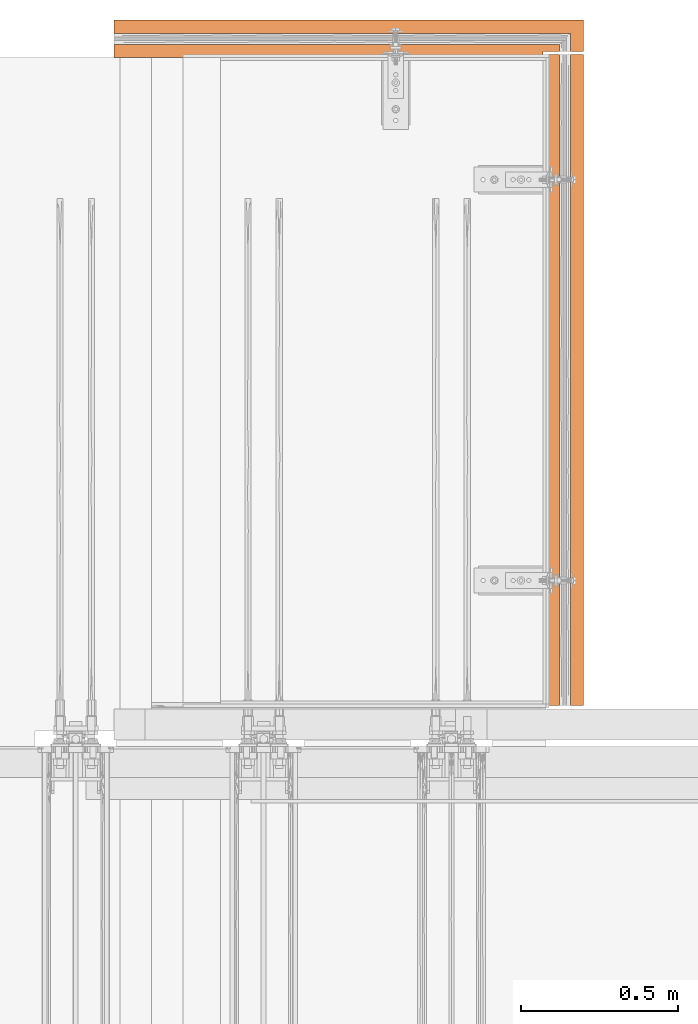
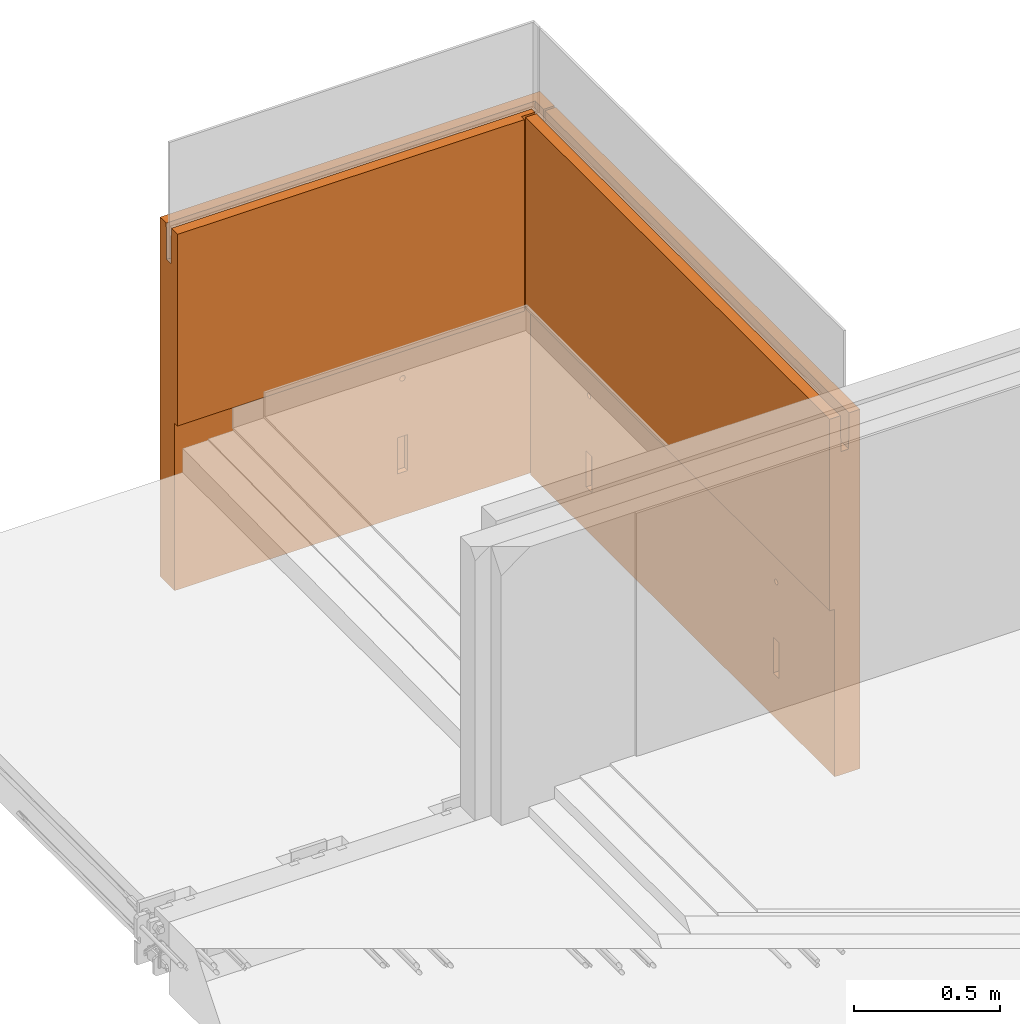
# One storey, part 17 of 17: 2 proxies.
"""IFC2X3 building model written with IfcOpenShell, lengths in metres."""

from ifc_helpers import new_model, entity, si_unit, converted_unit, derived_unit, direction, frame, origin, place, context, subcontext, project, spatial, faceted_brep, source, transform, mapped, material, material_list, type_object, type_shapes, element, save


model = new_model("IFC2X3")

# Units and contexts
model_context = context("Model", 3, precision=1e-05, world=origin(), true_north=direction((6.123031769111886e-17, 1.0)))
plan_context = context("Plan", 3, precision=1e-05, world=origin(), true_north=direction((6.123031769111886e-17, 1.0)))
body_context = subcontext(model_context, "Body", "Model", "MODEL_VIEW")
ifc_project = project(units=[si_unit("LENGTHUNIT", "METRE"), si_unit("AREAUNIT", "SQUARE_METRE"), converted_unit("PLANEANGLEUNIT", "DEGREE", entity("IfcPlaneAngleMeasure", 0.017453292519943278), si_unit("PLANEANGLEUNIT", "RADIAN"), dimensions=[0, 0, 0, 0, 0, 0, 0]), si_unit("VOLUMEUNIT", "CUBIC_METRE"), derived_unit("THERMALTRANSMITTANCEUNIT", [(si_unit("MASSUNIT", "GRAM", prefix="KILO"), 1), (si_unit("THERMODYNAMICTEMPERATUREUNIT", "KELVIN"), -1), (si_unit("TIMEUNIT", "SECOND"), -3)]), derived_unit("USERDEFINED", [(si_unit("MASSUNIT", "GRAM", prefix="KILO"), 1), (si_unit("THERMODYNAMICTEMPERATUREUNIT", "KELVIN"), -1), (si_unit("TIMEUNIT", "SECOND"), -2)]), derived_unit("THERMALRESISTANCEUNIT", [(si_unit("MASSUNIT", "GRAM", prefix="KILO"), -1), (si_unit("TIMEUNIT", "SECOND"), 3), (si_unit("THERMODYNAMICTEMPERATUREUNIT", "KELVIN"), 1)]), si_unit("PRESSUREUNIT", "PASCAL"), derived_unit("MASSDENSITYUNIT", [(si_unit("MASSUNIT", "GRAM", prefix="KILO"), 1), (si_unit("LENGTHUNIT", "METRE"), -3)]), derived_unit("VAPORPERMEABILITYUNIT", [(si_unit("LENGTHUNIT", "METRE"), -1), (si_unit("TIMEUNIT", "SECOND"), 1)]), derived_unit("USERDEFINED", [(si_unit("MASSUNIT", "GRAM", prefix="KILO"), 1), (si_unit("TIMEUNIT", "SECOND"), -3), (si_unit("LENGTHUNIT", "METRE"), 3), (si_unit("ELECTRICCURRENTUNIT", "AMPERE"), -2)])], contexts=[model_context, plan_context])

# Site, building, storey
site_placement = place(None, origin())
site = spatial("IfcSite", under=ifc_project, at=site_placement, Name="Default", CompositionType="ELEMENT")
building_placement = place(site_placement, origin())
building = spatial("IfcBuilding", under=site, at=building_placement, CompositionType="ELEMENT")
storey_placement = place(building_placement, origin())
storey = spatial("IfcBuildingStorey", under=building, at=storey_placement, Name="L0", CompositionType="ELEMENT", Elevation=0.0)

# Proxies
ifc_material_1 = material(Name="Aislamiento semirrígido")
ifc_material_2 = material(Name="Hormigón panel")
ifc_material_list = material_list([ifc_material_1, ifc_material_2])
building_element_proxy_type_1 = type_object("IfcBuildingElementProxyType", Name="Panel Hormigón 2:Panel Hormigón", PredefinedType="NOTDEFINED", material=ifc_material_list)
shared_shape_1 = source(origin(), body_context, "Body", "Brep", [
    faceted_brep([(7.62164993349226, 17.104530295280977, 0.010000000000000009), (7.62164993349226, 17.104530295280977, 0.6999999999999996), (7.62164993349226, 17.024530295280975, 0.6999999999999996), (7.62164993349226, 17.024530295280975, 0.010000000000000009), (6.50772026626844, 17.02453029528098, 0.010000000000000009), (6.50772026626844, 17.02453029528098, 0.6999999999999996), (6.50772026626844, 17.104530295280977, 0.6999999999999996), (6.50772026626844, 17.104530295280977, 0.010000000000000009), (7.387570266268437, 17.024530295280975, 0.1799999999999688), (7.3875702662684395, 17.024530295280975, 0.3299999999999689), (7.427870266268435, 17.024530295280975, 0.17999999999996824), (7.427870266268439, 17.024530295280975, 0.3299999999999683), (7.404873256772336, 17.024530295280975, 0.5826251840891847), (7.417246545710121, 17.024530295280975, 0.566499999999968), (7.418345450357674, 17.024530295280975, 0.5691529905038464), (7.418720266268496, 17.024530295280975, 0.5719999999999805), (7.418345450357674, 17.024530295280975, 0.5748470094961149), (7.417246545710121, 17.024530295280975, 0.5774999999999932), (7.41549844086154, 17.024530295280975, 0.5797781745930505), (7.413220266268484, 17.024530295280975, 0.5815262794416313), (7.410567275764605, 17.024530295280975, 0.5826251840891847), (7.407720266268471, 17.024530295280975, 0.5830000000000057), (7.402220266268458, 17.024530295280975, 0.5815262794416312), (7.41549844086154, 17.024530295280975, 0.5642218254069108), (7.413220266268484, 17.024530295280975, 0.56247372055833), (7.410567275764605, 17.024530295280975, 0.5613748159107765), (7.407720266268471, 17.024530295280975, 0.5609999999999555), (7.404873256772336, 17.024530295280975, 0.5613748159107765), (7.402220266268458, 17.024530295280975, 0.5624737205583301), (7.399942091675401, 17.024530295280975, 0.5642218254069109), (7.398193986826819, 17.024530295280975, 0.5664999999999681), (7.397095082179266, 17.024530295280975, 0.5691529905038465), (7.396720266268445, 17.024530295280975, 0.5719999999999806), (7.397095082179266, 17.024530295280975, 0.5748470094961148), (7.398193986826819, 17.024530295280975, 0.5774999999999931), (7.399942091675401, 17.024530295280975, 0.5797781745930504), (7.3875702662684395, 17.03660510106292, 0.3299999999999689), (7.427870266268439, 17.03660510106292, 0.3299999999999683), (7.387570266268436, 17.03660510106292, 0.1799999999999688), (7.427870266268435, 17.03660510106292, 0.17999999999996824), (7.407720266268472, 17.05953029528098, 0.5830000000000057), (7.404873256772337, 17.05953029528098, 0.5826251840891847), (7.402220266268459, 17.05953029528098, 0.5815262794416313), (7.399942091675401, 17.05953029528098, 0.5797781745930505), (7.398193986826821, 17.05953029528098, 0.5774999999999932), (7.397095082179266, 17.05953029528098, 0.5748470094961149), (7.396720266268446, 17.05953029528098, 0.5719999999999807), (7.397095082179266, 17.05953029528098, 0.5691529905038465), (7.398193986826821, 17.05953029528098, 0.5664999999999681), (7.399942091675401, 17.05953029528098, 0.5642218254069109), (7.402220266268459, 17.05953029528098, 0.5624737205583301), (7.404873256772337, 17.05953029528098, 0.5613748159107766), (7.407720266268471, 17.05953029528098, 0.5609999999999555), (7.410567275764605, 17.05953029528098, 0.5613748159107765), (7.413220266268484, 17.05953029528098, 0.56247372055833), (7.4154984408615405, 17.05953029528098, 0.5642218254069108), (7.417246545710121, 17.05953029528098, 0.566499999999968), (7.418345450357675, 17.05953029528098, 0.5691529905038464), (7.418720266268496, 17.05953029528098, 0.5719999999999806), (7.418345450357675, 17.05953029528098, 0.5748470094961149), (7.417246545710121, 17.05953029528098, 0.5774999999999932), (7.4154984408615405, 17.05953029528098, 0.5797781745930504), (7.413220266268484, 17.05953029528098, 0.5815262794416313), (7.410567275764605, 17.05953029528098, 0.5826251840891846)], [[[0, 1, 2, 3]], [[4, 5, 6, 7]], [[6, 5, 2, 1]], [[7, 6, 1, 0]], [[4, 7, 0, 3]], [[4, 8, 9]], [[8, 4, 3]], [[4, 9, 5]], [[3, 10, 8]], [[10, 3, 11]], [[11, 3, 2]], [[5, 12, 2]], [[11, 2, 13]], [[2, 14, 13]], [[15, 14, 2]], [[16, 15, 2]], [[2, 17, 16]], [[17, 2, 18]], [[19, 18, 2]], [[19, 2, 20]], [[21, 20, 2]], [[21, 2, 12]], [[22, 12, 5]], [[13, 23, 11]], [[24, 11, 23]], [[24, 25, 11]], [[25, 26, 11]], [[26, 9, 11]], [[26, 27, 9]], [[27, 28, 9]], [[28, 29, 9]], [[29, 30, 9]], [[31, 9, 30]], [[31, 32, 5]], [[31, 5, 9]], [[33, 5, 32]], [[5, 33, 34]], [[34, 35, 5]], [[35, 22, 5]], [[11, 9, 36, 37]], [[38, 8, 10, 39]], [[8, 38, 36, 9]], [[39, 10, 11, 37]], [[39, 37, 36, 38]], [[40, 41, 42, 43, 44, 45, 46, 47, 48, 49, 50, 51, 52, 53, 54, 55, 56, 57, 58, 59, 60, 61, 62, 63]], [[46, 32, 31, 47]], [[47, 31, 30, 48]], [[50, 49, 29, 28]], [[29, 49, 48, 30]], [[51, 50, 28, 27]], [[51, 27, 26, 52]], [[52, 26, 25, 53]], [[53, 25, 24, 54]], [[56, 55, 23, 13]], [[23, 55, 54, 24]], [[57, 56, 13, 14]], [[57, 14, 15, 58]], [[58, 15, 16, 59]], [[59, 16, 17, 60]], [[62, 61, 18, 19]], [[18, 61, 60, 17]], [[63, 62, 19, 20]], [[63, 20, 21, 40]], [[40, 21, 12, 41]], [[41, 12, 22, 42]], [[44, 43, 35, 34]], [[35, 43, 42, 22]], [[45, 44, 34, 33]], [[45, 33, 32, 46]]]),
    faceted_brep([(7.62164993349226, 17.10453029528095, 0.7199999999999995), (7.62164993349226, 17.10453029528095, 1.2005448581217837), (7.62164993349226, 17.004530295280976, 1.2005448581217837), (7.62164993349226, 17.004530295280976, 0.7199999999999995), (6.50772026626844, 17.004530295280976, 0.7199999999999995), (6.50772026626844, 17.104530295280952, 0.7199999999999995), (6.50772026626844, 17.004530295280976, 1.2005448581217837), (6.50772026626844, 17.104530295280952, 1.2005448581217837)], [[[0, 1, 2, 3]], [[4, 5, 0, 3]], [[6, 4, 3, 2]], [[7, 6, 2, 1]], [[5, 7, 1, 0]], [[5, 4, 6, 7]]]),
    faceted_brep([(7.62164993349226, 17.024530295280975, 0.6999999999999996), (7.62164993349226, 17.104530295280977, 0.6999999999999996), (7.62164993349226, 17.104530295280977, 0.010000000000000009), (7.62164993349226, 17.024530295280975, 0.010000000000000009), (7.62164993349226, 17.004530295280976, 1.2005448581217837), (7.62164993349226, 17.10453029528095, 1.2005448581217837), (7.62164993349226, 17.10453029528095, 0.7199999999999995), (7.62164993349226, 17.004530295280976, 0.7199999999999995), (7.93022026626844, 17.037030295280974, 1.4999999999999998), (6.50772026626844, 17.03703029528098, 1.4999999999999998), (6.50772026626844, 16.994530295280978, 1.4999999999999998), (7.877720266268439, 16.994530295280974, 1.4999999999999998), (7.877720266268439, 17.014530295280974, 1.4999999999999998), (7.93022026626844, 17.014530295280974, 1.4999999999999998), (7.96522026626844, 17.072030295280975, 1.4999999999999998), (7.965220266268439, 17.014530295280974, 1.4999999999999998), (8.00772026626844, 17.014530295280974, 1.4999999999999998), (8.00772026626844, 17.114530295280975, 1.4999999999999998), (6.50772026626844, 17.11453029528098, 1.4999999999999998), (6.50772026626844, 17.07203029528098, 1.4999999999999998), (8.00772026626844, 17.014530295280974, 0.0), (6.50772026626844, 17.014530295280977, 0.0), (6.50772026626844, 17.11453029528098, 0.0), (8.00772026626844, 17.114530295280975, 0.0), (6.50772026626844, 17.069530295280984, 1.35), (6.50772026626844, 17.104530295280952, 1.2005448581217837), (6.50772026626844, 17.004530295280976, 1.2005448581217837), (6.50772026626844, 17.039530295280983, 1.3499999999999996), (6.50772026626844, 17.104530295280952, 0.7199999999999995), (6.50772026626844, 17.104530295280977, 0.6999999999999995), (6.50772026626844, 17.104530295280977, 0.010000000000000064), (6.50772026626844, 17.02453029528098, 0.009999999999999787), (6.50772026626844, 17.014530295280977, 0.6999999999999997), (6.50772026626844, 17.02453029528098, 0.6999999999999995), (6.50772026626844, 17.004530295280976, 0.7199999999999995), (6.50772026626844, 16.994530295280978, 0.6999999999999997), (7.877720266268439, 16.994530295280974, 0.6999999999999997), (7.877720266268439, 17.014530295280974, 0.6999999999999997), (7.397095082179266, 17.014530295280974, 0.5748470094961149), (7.398193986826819, 17.014530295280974, 0.5774999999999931), (7.396720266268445, 17.014530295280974, 0.5719999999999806), (7.399942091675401, 17.014530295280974, 0.5797781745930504), (7.402220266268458, 17.014530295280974, 0.5815262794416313), (7.404873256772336, 17.014530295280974, 0.5826251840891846), (7.407720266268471, 17.014530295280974, 0.5830000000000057), (7.410567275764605, 17.014530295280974, 0.5826251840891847), (7.413220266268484, 17.014530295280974, 0.5815262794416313), (7.41549844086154, 17.014530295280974, 0.5797781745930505), (7.417246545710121, 17.014530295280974, 0.5774999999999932), (7.418345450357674, 17.014530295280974, 0.5748470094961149), (7.418720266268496, 17.014530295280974, 0.5719999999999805), (7.418345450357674, 17.014530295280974, 0.5691529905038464), (7.427870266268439, 17.014530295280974, 0.32999999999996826), (7.417246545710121, 17.014530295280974, 0.566499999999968), (7.41549844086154, 17.014530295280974, 0.5642218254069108), (7.413220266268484, 17.014530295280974, 0.56247372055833), (7.410567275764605, 17.014530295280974, 0.5613748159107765), (7.407720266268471, 17.014530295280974, 0.5609999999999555), (7.3875702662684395, 17.014530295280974, 0.3299999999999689), (7.404873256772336, 17.014530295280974, 0.5613748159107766), (7.402220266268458, 17.014530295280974, 0.5624737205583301), (7.399942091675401, 17.014530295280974, 0.5642218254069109), (7.398193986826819, 17.014530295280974, 0.5664999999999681), (7.397095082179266, 17.014530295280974, 0.5691529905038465), (7.387570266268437, 17.014530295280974, 0.17999999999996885), (7.427870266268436, 17.014530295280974, 0.17999999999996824), (7.962720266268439, 17.014530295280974, 1.3499999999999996), (7.93272026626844, 17.014530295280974, 1.3499999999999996), (7.3875702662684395, 17.024530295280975, 0.3299999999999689), (7.427870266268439, 17.024530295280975, 0.3299999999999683), (7.387570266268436, 17.024530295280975, 0.1799999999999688), (7.427870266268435, 17.024530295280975, 0.17999999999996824), (7.398193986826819, 17.024530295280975, 0.5664999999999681), (7.397095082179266, 17.024530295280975, 0.5691529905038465), (7.396720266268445, 17.024530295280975, 0.5719999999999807), (7.404873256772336, 17.024530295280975, 0.5613748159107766), (7.402220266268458, 17.024530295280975, 0.5624737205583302), (7.399942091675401, 17.024530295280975, 0.5642218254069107), (7.407720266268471, 17.024530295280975, 0.5609999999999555), (7.41549844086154, 17.024530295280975, 0.5642218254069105), (7.413220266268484, 17.024530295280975, 0.5624737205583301), (7.410567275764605, 17.024530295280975, 0.5613748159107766), (7.418720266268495, 17.024530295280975, 0.5719999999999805), (7.418345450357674, 17.024530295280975, 0.5691529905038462), (7.417246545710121, 17.024530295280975, 0.566499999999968), (7.417246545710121, 17.024530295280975, 0.5774999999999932), (7.418345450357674, 17.024530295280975, 0.5748470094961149), (7.410567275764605, 17.024530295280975, 0.5826251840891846), (7.413220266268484, 17.024530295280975, 0.5815262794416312), (7.41549844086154, 17.024530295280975, 0.5797781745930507), (7.407720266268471, 17.024530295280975, 0.5830000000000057), (7.404873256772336, 17.024530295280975, 0.5826251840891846), (7.402220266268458, 17.024530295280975, 0.5815262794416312), (7.399942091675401, 17.024530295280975, 0.5797781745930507), (7.397095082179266, 17.024530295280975, 0.5748470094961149), (7.398193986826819, 17.024530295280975, 0.5774999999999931), (7.962720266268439, 17.069530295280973, 1.3499999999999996), (7.93272026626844, 17.039530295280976, 1.3499999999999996)], [[[0, 1, 2, 3]], [[4, 5, 6, 7]], [[8, 9, 10, 11, 12, 13]], [[14, 15, 16, 17, 18, 19]], [[20, 21, 22, 23]], [[24, 19, 18]], [[24, 18, 25]], [[26, 24, 25]], [[27, 24, 26]], [[28, 25, 18]], [[18, 22, 28]], [[29, 28, 22]], [[22, 30, 29]], [[30, 22, 21]], [[21, 31, 30]], [[21, 32, 31]], [[32, 33, 31]], [[32, 34, 33]], [[34, 32, 35]], [[10, 26, 35]], [[34, 35, 26]], [[27, 26, 10]], [[10, 9, 27]], [[33, 34, 28]], [[33, 28, 29]], [[11, 10, 35, 36]], [[17, 16, 20, 23]], [[18, 17, 23, 22]], [[36, 35, 32, 37]], [[1, 0, 33, 29]], [[38, 39, 32]], [[32, 40, 38]], [[41, 32, 39]], [[32, 41, 42]], [[42, 43, 32]], [[44, 32, 43]], [[32, 44, 37]], [[44, 45, 37]], [[46, 37, 45]], [[37, 46, 47]], [[47, 48, 37]], [[49, 37, 48]], [[50, 37, 49]], [[51, 37, 50]], [[37, 51, 52]], [[51, 53, 52]], [[52, 53, 54]], [[52, 54, 55]], [[55, 56, 52]], [[57, 52, 56]], [[52, 57, 58]], [[58, 57, 59]], [[58, 59, 60]], [[58, 60, 61]], [[61, 62, 58]], [[58, 62, 63]], [[63, 40, 32]], [[63, 32, 58]], [[58, 32, 21]], [[64, 58, 21]], [[52, 20, 37]], [[65, 20, 52]], [[64, 20, 65]], [[20, 64, 21]], [[37, 20, 66]], [[16, 66, 20]], [[66, 16, 15]], [[37, 66, 67]], [[12, 37, 67]], [[12, 67, 13]], [[58, 68, 69, 52]], [[70, 64, 65, 71]], [[64, 70, 68, 58]], [[71, 65, 52, 69]], [[62, 72, 73, 63]], [[63, 73, 74, 40]], [[59, 75, 76, 60]], [[60, 76, 77, 61]], [[61, 77, 72, 62]], [[75, 59, 57, 78]], [[54, 79, 80, 55]], [[55, 80, 81, 56]], [[50, 82, 83, 51]], [[51, 83, 84, 53]], [[53, 84, 79, 54]], [[78, 57, 56, 81]], [[48, 85, 86, 49]], [[49, 86, 82, 50]], [[45, 87, 88, 46]], [[46, 88, 89, 47]], [[47, 89, 85, 48]], [[87, 45, 44, 90]], [[91, 43, 42, 92]], [[92, 42, 41, 93]], [[94, 95, 39, 38]], [[39, 95, 93, 41]], [[74, 94, 38, 40]], [[90, 44, 43, 91]], [[96, 66, 15, 14]], [[8, 13, 67, 97]], [[67, 66, 96, 24, 27, 97]], [[19, 24, 96, 14]], [[27, 9, 8, 97]], [[37, 12, 11, 36]], [[2, 1, 29, 30]], [[5, 25, 28, 6]], [[2, 30, 31, 3]], [[68, 70, 31]], [[33, 68, 31]], [[68, 33, 73]], [[72, 68, 73]], [[68, 72, 77]], [[68, 77, 76]], [[68, 76, 75]], [[68, 75, 78]], [[69, 68, 78]], [[3, 31, 70]], [[70, 71, 3]], [[69, 3, 71]], [[0, 3, 69]], [[33, 74, 73]], [[74, 33, 94]], [[95, 94, 33]], [[33, 93, 95]], [[33, 92, 93]], [[33, 91, 92]], [[0, 91, 33]], [[91, 0, 90]], [[69, 78, 81]], [[69, 81, 80]], [[79, 69, 80]], [[69, 79, 84]], [[84, 0, 69]], [[84, 83, 0]], [[0, 83, 82]], [[0, 82, 86]], [[86, 85, 0]], [[89, 0, 85]], [[0, 89, 88]], [[87, 0, 88]], [[0, 87, 90]], [[7, 6, 28, 34]], [[4, 7, 34, 26]], [[5, 4, 26, 25]]]),
])
type_shapes(building_element_proxy_type_1, [shared_shape_1])
proxy_1_placement = place(storey_placement, frame((0.0, 0.0, -0.4999999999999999)))
element("IfcBuildingElementProxy", 1, at=proxy_1_placement, inside=storey, type_object=building_element_proxy_type_1, material=ifc_material_list, Name="Panel Hormigón 2:Panel Hormigón", ObjectType="Panel Hormigón 2:Panel Hormigón", context=body_context, shape_type="MappedRepresentation", body=[
    mapped(shared_shape_1, transform((0.0, 0.0, 0.0), scale=1.0)),
])
building_element_proxy_type_2 = type_object("IfcBuildingElementProxyType", Name="Panel Hormigón:Panel Hormigón", PredefinedType="NOTDEFINED", material=ifc_material_2)
shared_shape_2 = source(origin(), body_context, "Body", "Brep", [
    faceted_brep([(7.930220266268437, 14.924530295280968, 1.4999999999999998), (7.930220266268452, 17.00453029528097, 1.4999999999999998), (7.8877202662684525, 17.00453029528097, 1.4999999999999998), (7.887720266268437, 14.924530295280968, 1.4999999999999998), (8.007720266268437, 14.924530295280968, 1.4999999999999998), (8.007720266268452, 17.00453029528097, 1.4999999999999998), (7.965220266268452, 17.00453029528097, 1.4999999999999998), (7.965220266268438, 14.924530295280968, 1.4999999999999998), (7.907720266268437, 14.924530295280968, 0.0), (7.907720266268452, 17.00453029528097, 0.0), (8.007720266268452, 17.00453029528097, 0.0), (8.007720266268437, 14.924530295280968, 0.0), (7.932720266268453, 17.00453029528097, 1.3499999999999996), (7.962720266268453, 17.00453029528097, 1.35), (7.907720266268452, 17.00453029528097, 0.6999999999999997), (7.8877202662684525, 17.00453029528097, 0.6999999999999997), (7.887720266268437, 14.924530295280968, 0.6999999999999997), (7.9627202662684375, 14.924530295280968, 1.3499999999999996), (7.932720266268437, 14.924530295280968, 1.3499999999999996), (7.907720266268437, 14.924530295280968, 0.6999999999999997), (7.9077202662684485, 16.61230846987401, 0.5797781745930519), (7.9077202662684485, 16.61003029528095, 0.5815262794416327), (7.9077202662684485, 16.614056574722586, 0.5774999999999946), (7.9077202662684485, 16.60737730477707, 0.5826251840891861), (7.9077202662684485, 16.604530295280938, 0.5830000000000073), (7.9077202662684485, 16.6016832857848, 0.5826251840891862), (7.9077202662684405, 15.327227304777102, 0.5826251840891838), (7.9077202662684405, 15.329880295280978, 0.5815262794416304), (7.9077202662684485, 16.599030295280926, 0.5815262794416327), (7.9077202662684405, 15.332158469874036, 0.5797781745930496), (7.9077202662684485, 16.596752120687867, 0.5797781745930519), (7.9077202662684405, 15.333906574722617, 0.5774999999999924), (7.9077202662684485, 16.595004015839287, 0.5774999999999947), (7.9077202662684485, 16.593905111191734, 0.5748470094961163), (7.9077202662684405, 15.335005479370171, 0.574847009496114), (7.9077202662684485, 16.593530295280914, 0.571999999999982), (7.9077202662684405, 15.335380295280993, 0.5719999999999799), (7.9077202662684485, 16.593905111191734, 0.5691529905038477), (7.9077202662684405, 15.335005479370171, 0.5691529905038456), (7.9077202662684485, 16.584380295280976, 0.33000000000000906), (7.9077202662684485, 16.595004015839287, 0.5664999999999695), (7.9077202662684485, 16.596752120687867, 0.5642218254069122), (7.9077202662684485, 16.599030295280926, 0.5624737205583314), (7.9077202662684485, 16.6016832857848, 0.5613748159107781), (7.9077202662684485, 16.604530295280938, 0.560999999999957), (7.90772026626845, 16.624680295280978, 0.33000000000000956), (7.9077202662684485, 16.60737730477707, 0.5613748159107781), (7.9077202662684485, 16.61003029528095, 0.5624737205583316), (7.9077202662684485, 16.61230846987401, 0.5642218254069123), (7.9077202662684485, 16.614056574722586, 0.5664999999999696), (7.9077202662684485, 16.61515547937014, 0.5691529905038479), (7.9077202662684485, 16.615530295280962, 0.5719999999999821), (7.9077202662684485, 16.61515547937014, 0.5748470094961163), (7.90772026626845, 16.62468029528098, 0.1800000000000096), (7.9077202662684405, 15.344530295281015, 0.3300000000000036), (7.9077202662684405, 15.344530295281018, 0.18000000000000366), (7.9077202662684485, 16.58438029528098, 0.180000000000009), (7.9077202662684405, 15.304230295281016, 0.18000000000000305), (7.9077202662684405, 15.333906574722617, 0.5664999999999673), (7.9077202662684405, 15.332158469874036, 0.56422182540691), (7.9077202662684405, 15.329880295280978, 0.5624737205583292), (7.9077202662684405, 15.327227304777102, 0.5613748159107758), (7.9077202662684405, 15.324380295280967, 0.5609999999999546), (7.9077202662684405, 15.304230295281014, 0.3300000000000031), (7.9077202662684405, 15.321533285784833, 0.5613748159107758), (7.9077202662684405, 15.318880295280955, 0.5624737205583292), (7.9077202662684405, 15.316602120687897, 0.56422182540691), (7.9077202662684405, 15.314854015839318, 0.5664999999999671), (7.9077202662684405, 15.324380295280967, 0.583000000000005), (7.9077202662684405, 15.321533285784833, 0.5826251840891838), (7.9077202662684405, 15.318880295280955, 0.5815262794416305), (7.9077202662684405, 15.316602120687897, 0.5797781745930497), (7.9077202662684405, 15.314854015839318, 0.5774999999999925), (7.9077202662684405, 15.313755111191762, 0.5748470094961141), (7.9077202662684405, 15.313380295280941, 0.5719999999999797), (7.9077202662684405, 15.313755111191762, 0.5691529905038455), (7.929795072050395, 16.624680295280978, 0.3300000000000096), (7.929795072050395, 16.584380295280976, 0.33000000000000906), (7.9297950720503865, 15.344530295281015, 0.3300000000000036), (7.9297950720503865, 15.304230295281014, 0.3300000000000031), (7.929795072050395, 16.624680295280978, 0.18000000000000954), (7.929795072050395, 16.584380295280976, 0.180000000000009), (7.9297950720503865, 15.344530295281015, 0.1800000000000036), (7.9297950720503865, 15.304230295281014, 0.18000000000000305), (7.952720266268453, 16.60453029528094, 0.5830000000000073), (7.952720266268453, 16.607377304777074, 0.5826251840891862), (7.952720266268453, 16.61003029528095, 0.5815262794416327), (7.952720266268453, 16.61230846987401, 0.5797781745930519), (7.952720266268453, 16.61405657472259, 0.5774999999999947), (7.952720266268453, 16.61515547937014, 0.5748470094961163), (7.952720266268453, 16.615530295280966, 0.5719999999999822), (7.952720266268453, 16.61515547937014, 0.5691529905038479), (7.952720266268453, 16.61405657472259, 0.5664999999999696), (7.952720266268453, 16.61230846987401, 0.5642218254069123), (7.952720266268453, 16.61003029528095, 0.5624737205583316), (7.952720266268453, 16.607377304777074, 0.5613748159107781), (7.952720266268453, 16.60453029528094, 0.560999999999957), (7.952720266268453, 16.601683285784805, 0.5613748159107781), (7.952720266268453, 16.599030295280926, 0.5624737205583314), (7.952720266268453, 16.59675212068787, 0.5642218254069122), (7.952720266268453, 16.595004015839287, 0.5664999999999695), (7.952720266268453, 16.593905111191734, 0.5691529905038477), (7.952720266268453, 16.593530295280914, 0.5719999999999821), (7.952720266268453, 16.593905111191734, 0.5748470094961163), (7.952720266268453, 16.595004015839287, 0.5774999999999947), (7.952720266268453, 16.59675212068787, 0.5797781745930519), (7.952720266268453, 16.599030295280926, 0.5815262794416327), (7.952720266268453, 16.601683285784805, 0.5826251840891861), (7.952720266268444, 15.32438029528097, 0.583000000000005), (7.952720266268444, 15.327227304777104, 0.5826251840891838), (7.952720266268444, 15.329880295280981, 0.5815262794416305), (7.952720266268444, 15.332158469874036, 0.5797781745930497), (7.952720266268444, 15.333906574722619, 0.5774999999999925), (7.952720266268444, 15.335005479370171, 0.5748470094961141), (7.952720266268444, 15.335380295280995, 0.5719999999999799), (7.952720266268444, 15.335005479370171, 0.5691529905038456), (7.952720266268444, 15.333906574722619, 0.5664999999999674), (7.952720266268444, 15.33215846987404, 0.56422182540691), (7.952720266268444, 15.329880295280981, 0.5624737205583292), (7.952720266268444, 15.327227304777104, 0.5613748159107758), (7.952720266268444, 15.32438029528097, 0.5609999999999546), (7.952720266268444, 15.321533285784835, 0.5613748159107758), (7.952720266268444, 15.318880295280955, 0.5624737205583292), (7.952720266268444, 15.316602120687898, 0.56422182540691), (7.952720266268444, 15.314854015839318, 0.5664999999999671), (7.952720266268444, 15.313755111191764, 0.5691529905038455), (7.952720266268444, 15.313380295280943, 0.5719999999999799), (7.952720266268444, 15.313755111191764, 0.574847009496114), (7.952720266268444, 15.314854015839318, 0.5774999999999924), (7.952720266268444, 15.316602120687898, 0.5797781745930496), (7.952720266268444, 15.318880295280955, 0.5815262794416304), (7.952720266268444, 15.321533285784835, 0.5826251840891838)], [[[0, 1, 2, 3]], [[4, 5, 6, 7]], [[8, 9, 10, 11]], [[2, 1, 12, 13, 6, 5, 10, 9, 14, 15]], [[3, 2, 15, 16]], [[4, 7, 17, 18, 0, 3, 16, 19, 8, 11]], [[5, 4, 11, 10]], [[16, 15, 14, 19]], [[20, 21, 14]], [[22, 20, 14]], [[23, 14, 21]], [[14, 23, 24]], [[25, 14, 24]], [[25, 19, 14]], [[19, 25, 26]], [[25, 27, 26]], [[27, 25, 28]], [[28, 29, 27]], [[30, 29, 28]], [[30, 31, 29]], [[31, 30, 32]], [[33, 31, 32]], [[31, 33, 34]], [[34, 33, 35]], [[35, 36, 34]], [[36, 35, 37]], [[36, 37, 38]], [[38, 37, 39]], [[39, 37, 40]], [[39, 40, 41]], [[39, 41, 42]], [[39, 42, 43]], [[39, 43, 44]], [[44, 45, 39]], [[46, 45, 44]], [[45, 46, 47]], [[45, 47, 48]], [[45, 48, 49]], [[49, 50, 14]], [[49, 14, 45]], [[14, 50, 51]], [[14, 51, 52]], [[22, 14, 52]], [[45, 14, 9]], [[45, 9, 53]], [[38, 39, 54]], [[39, 55, 54]], [[55, 39, 56]], [[56, 53, 9]], [[8, 56, 9]], [[56, 8, 55]], [[55, 8, 57]], [[54, 58, 38]], [[54, 59, 58]], [[60, 59, 54]], [[54, 61, 60]], [[61, 54, 62]], [[62, 54, 63]], [[63, 64, 62]], [[63, 65, 64]], [[63, 66, 65]], [[63, 67, 66]], [[63, 57, 8]], [[67, 63, 19]], [[63, 8, 19]], [[19, 26, 68]], [[19, 68, 69]], [[19, 69, 70]], [[70, 71, 19]], [[72, 19, 71]], [[73, 19, 72]], [[19, 73, 74]], [[19, 74, 75]], [[75, 67, 19]], [[17, 13, 12, 18]], [[18, 12, 1, 0]], [[7, 6, 13, 17]], [[45, 76, 77, 39]], [[54, 78, 79, 63]], [[80, 53, 56, 81]], [[82, 55, 57, 83]], [[53, 80, 76, 45]], [[81, 56, 39, 77]], [[81, 77, 76, 80]], [[83, 79, 78, 82]], [[55, 82, 78, 54]], [[83, 57, 63, 79]], [[84, 85, 86, 87, 88, 89, 90, 91, 92, 93, 94, 95, 96, 97, 98, 99, 100, 101, 102, 103, 104, 105, 106, 107]], [[108, 109, 110, 111, 112, 113, 114, 115, 116, 117, 118, 119, 120, 121, 122, 123, 124, 125, 126, 127, 128, 129, 130, 131]], [[90, 51, 50, 91]], [[91, 50, 49, 92]], [[94, 93, 48, 47]], [[48, 93, 92, 49]], [[95, 94, 47, 46]], [[95, 46, 44, 96]], [[96, 44, 43, 97]], [[97, 43, 42, 98]], [[100, 99, 41, 40]], [[41, 99, 98, 42]], [[101, 100, 40, 37]], [[101, 37, 35, 102]], [[102, 35, 33, 103]], [[103, 33, 32, 104]], [[106, 105, 30, 28]], [[30, 105, 104, 32]], [[107, 106, 28, 25]], [[107, 25, 24, 84]], [[84, 24, 23, 85]], [[85, 23, 21, 86]], [[88, 87, 20, 22]], [[20, 87, 86, 21]], [[89, 88, 22, 52]], [[89, 52, 51, 90]], [[114, 36, 38, 115]], [[115, 38, 58, 116]], [[118, 117, 59, 60]], [[59, 117, 116, 58]], [[119, 118, 60, 61]], [[119, 61, 62, 120]], [[120, 62, 64, 121]], [[121, 64, 65, 122]], [[124, 123, 66, 67]], [[66, 123, 122, 65]], [[125, 124, 67, 75]], [[125, 75, 74, 126]], [[126, 74, 73, 127]], [[127, 73, 72, 128]], [[130, 129, 71, 70]], [[71, 129, 128, 72]], [[131, 130, 70, 69]], [[131, 69, 68, 108]], [[108, 68, 26, 109]], [[109, 26, 27, 110]], [[112, 111, 29, 31]], [[29, 111, 110, 27]], [[113, 112, 31, 34]], [[113, 34, 36, 114]]]),
])
type_shapes(building_element_proxy_type_2, [shared_shape_2])
proxy_2_placement = place(storey_placement, frame((0.0, 0.0, -0.4999999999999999)))
element("IfcBuildingElementProxy", 2, at=proxy_2_placement, inside=storey, type_object=building_element_proxy_type_2, material=ifc_material_2, Name="Panel Hormigón:Panel Hormigón", ObjectType="Panel Hormigón:Panel Hormigón", context=body_context, shape_type="MappedRepresentation", body=[
    mapped(shared_shape_2, transform((0.0, 0.0, 0.0), scale=1.0)),
])

save(model, "model.ifc")
